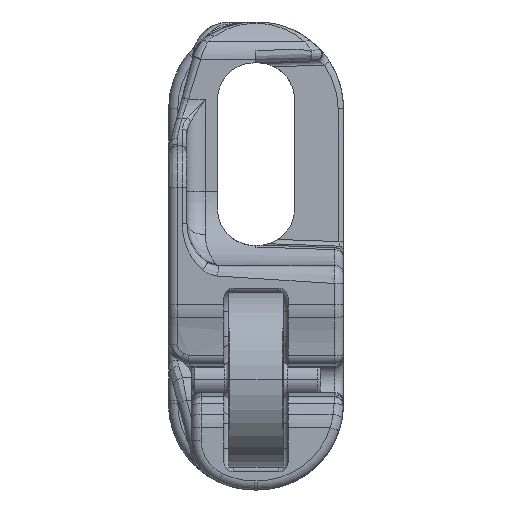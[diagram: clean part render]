
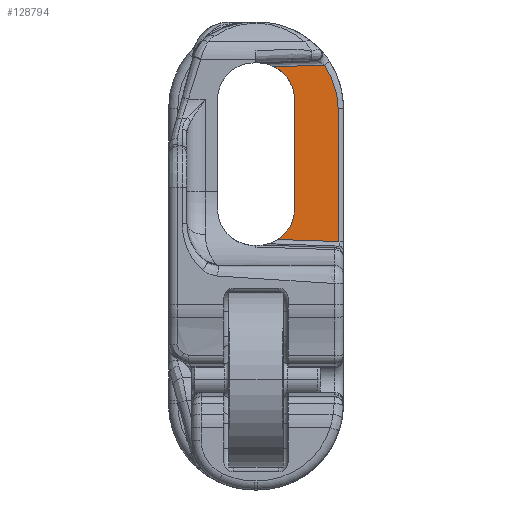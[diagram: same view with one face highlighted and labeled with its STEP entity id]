
A CAD part, left-side view. The second image highlights one B-rep face of the part: STEP entity #128794.
In plain terms, the highlighted planar face has unit normal (-0.999, -0.035, 0).
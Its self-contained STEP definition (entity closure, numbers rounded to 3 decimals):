
#36781=CARTESIAN_POINT('',(-163.38,-2.004,
22.62));
#36834=DIRECTION('',(0.,0.,-1.));
#36835=VECTOR('',#36834,11.9);
#36836=CARTESIAN_POINT('',(-163.303,-4.2,19.05));
#36837=LINE('',#36836,#36835);
#36838=CARTESIAN_POINT('',(-163.38,-2.004,
22.62));
#36839=CARTESIAN_POINT('',(-163.367,-2.37,
22.435));
#36840=CARTESIAN_POINT('',(-163.346,-2.981,
21.991));
#36841=CARTESIAN_POINT('',(-163.323,-3.645,
21.17));
#36842=CARTESIAN_POINT('',(-163.308,-4.079,
20.206));
#36843=CARTESIAN_POINT('',(-163.303,-4.2,19.46));
#36844=CARTESIAN_POINT('',(-163.303,-4.2,19.05));
#36846=DIRECTION('',(0.035,-0.999,0.035));
#36847=VECTOR('',#36846,5.475);
#36848=CARTESIAN_POINT('',(-163.38,-2.004,
22.62));
#36849=LINE('',#36848,#36847);
#36850=CARTESIAN_POINT('',(-163.189,-7.472,
22.811));
#36851=CARTESIAN_POINT('',(-163.188,-7.511,
22.751));
#36852=CARTESIAN_POINT('',(-163.185,-7.589,
22.629));
#36853=CARTESIAN_POINT('',(-163.181,-7.702,
22.444));
#36854=CARTESIAN_POINT('',(-163.177,-7.81,
22.256));
#36855=CARTESIAN_POINT('',(-163.174,-7.914,
22.065));
#36856=CARTESIAN_POINT('',(-163.17,-8.014,
21.872));
#36857=CARTESIAN_POINT('',(-163.167,-8.109,
21.677));
#36858=CARTESIAN_POINT('',(-163.164,-8.199,
21.479));
#36859=CARTESIAN_POINT('',(-163.161,-8.285,
21.278));
#36860=CARTESIAN_POINT('',(-163.158,-8.366,
21.076));
#36861=CARTESIAN_POINT('',(-163.155,-8.442,
20.872));
#36862=CARTESIAN_POINT('',(-163.153,-8.513,
20.665));
#36863=CARTESIAN_POINT('',(-163.15,-8.58,
20.457));
#36864=CARTESIAN_POINT('',(-163.148,-8.641,
20.247));
#36865=CARTESIAN_POINT('',(-163.146,-8.696,
20.035));
#36866=CARTESIAN_POINT('',(-163.145,-8.747,
19.822));
#36867=CARTESIAN_POINT('',(-163.143,-8.792,
19.608));
#36868=CARTESIAN_POINT('',(-163.142,-8.832,
19.392));
#36869=CARTESIAN_POINT('',(-163.14,-8.866,
19.176));
#36870=CARTESIAN_POINT('',(-163.139,-8.895,
18.96));
#36871=CARTESIAN_POINT('',(-163.139,-8.917,
18.744));
#36872=CARTESIAN_POINT('',(-163.138,-8.935,
18.529));
#36873=CARTESIAN_POINT('',(-163.138,-8.946,
18.314));
#36874=CARTESIAN_POINT('',(-163.137,-8.95,
18.171));
#36875=CARTESIAN_POINT('',(-163.137,-8.952,18.1));
#36877=CARTESIAN_POINT('',(-163.137,-8.952,18.1));
#36878=CARTESIAN_POINT('',(-163.137,-8.969,
16.894));
#36879=CARTESIAN_POINT('',(-163.136,-9.,
14.484));
#36880=CARTESIAN_POINT('',(-163.135,-9.029,
10.864));
#36881=CARTESIAN_POINT('',(-163.134,-9.044,
7.266));
#36882=CARTESIAN_POINT('',(-163.134,-9.043,
4.813));
#36883=CARTESIAN_POINT('',(-163.134,-9.042,
3.578));
#36885=DIRECTION('',(-0.035,0.999,0.034));
#36886=VECTOR('',#36885,6.661);
#36887=CARTESIAN_POINT('',(-163.134,-9.042,
3.578));
#36888=LINE('',#36887,#36886);
#36889=CARTESIAN_POINT('',(-163.303,-4.2,7.15));
#36890=CARTESIAN_POINT('',(-163.303,-4.2,6.789));
#36891=CARTESIAN_POINT('',(-163.307,-4.105,
6.119));
#36892=CARTESIAN_POINT('',(-163.319,-3.751,5.229));
#36893=CARTESIAN_POINT('',(-163.338,-3.2,
4.445));
#36894=CARTESIAN_POINT('',(-163.356,-2.691,
3.999));
#36895=CARTESIAN_POINT('',(-163.367,-2.389,
3.802));
#76407=VERTEX_POINT('',#36877);
#76408=VERTEX_POINT('',#36883);
#76410=VERTEX_POINT('',#36850);
#76904=CARTESIAN_POINT('',(-163.303,-4.2,19.05));
#76905=CARTESIAN_POINT('',(-163.303,-4.2,7.15));
#76906=VERTEX_POINT('',#76904);
#76907=VERTEX_POINT('',#76905);
#76915=VERTEX_POINT('',#36781);
#84399=VERTEX_POINT('',#36895);
#128779=CARTESIAN_POINT('',(-163.45,0.,24.41));
#128780=DIRECTION('',(0.999,0.035,0.));
#128781=DIRECTION('',(0.,0.,-1.));
#128782=AXIS2_PLACEMENT_3D('',#128779,#128780,#128781);
#128783=PLANE('',#128782);
#128784=ORIENTED_EDGE('',*,*,#100979,.F.);
#128785=ORIENTED_EDGE('',*,*,#105134,.F.);
#128786=ORIENTED_EDGE('',*,*,#128774,.T.);
#128787=ORIENTED_EDGE('',*,*,#110650,.T.);
#128788=ORIENTED_EDGE('',*,*,#110696,.T.);
#128790=ORIENTED_EDGE('',*,*,#128789,.T.);
#128791=ORIENTED_EDGE('',*,*,#101384,.F.);
#128792=EDGE_LOOP('',(#128784,#128785,#128786,#128787,#128788,#128790,#128791));
#128793=FACE_OUTER_BOUND('',#128792,.F.);
#36845=B_SPLINE_CURVE_WITH_KNOTS('',3,(#36838,#36839,#36840,#36841,#36842,
#36843,#36844),.UNSPECIFIED.,.F.,.F.,(4,1,1,1,4),(0.,0.25,0.5,0.75,
1.),.UNSPECIFIED.);
#36876=B_SPLINE_CURVE_WITH_KNOTS('',3,(#36850,#36851,#36852,#36853,#36854,
#36855,#36856,#36857,#36858,#36859,#36860,#36861,#36862,#36863,#36864,#36865,
#36866,#36867,#36868,#36869,#36870,#36871,#36872,#36873,#36874,#36875),
.UNSPECIFIED.,.F.,.F.,(4,1,1,1,1,1,1,1,1,1,1,1,1,1,1,1,1,1,1,1,1,1,1,4),(0.,
0.043,0.087,0.13,0.174,
0.217,0.261,0.304,0.348,
0.391,0.435,0.478,0.522,
0.565,0.609,0.652,0.696,
0.739,0.783,0.826,0.87,
0.913,0.957,1.),.UNSPECIFIED.);
#36884=B_SPLINE_CURVE_WITH_KNOTS('',3,(#36877,#36878,#36879,#36880,#36881,
#36882,#36883),.UNSPECIFIED.,.F.,.F.,(4,1,1,1,4),(0.,0.25,0.5,0.75,
1.),.UNSPECIFIED.);
#36896=B_SPLINE_CURVE_WITH_KNOTS('',3,(#36889,#36890,#36891,#36892,#36893,
#36894,#36895),.UNSPECIFIED.,.F.,.F.,(4,1,1,1,4),(0.,0.25,0.5,0.75,
1.),.UNSPECIFIED.);
#100979=EDGE_CURVE('',#76906,#76907,#36837,.T.);
#101384=EDGE_CURVE('',#76907,#84399,#36896,.T.);
#105134=EDGE_CURVE('',#76915,#76906,#36845,.T.);
#110650=EDGE_CURVE('',#76410,#76407,#36876,.T.);
#110696=EDGE_CURVE('',#76407,#76408,#36884,.T.);
#128774=EDGE_CURVE('',#76915,#76410,#36849,.T.);
#128789=EDGE_CURVE('',#76408,#84399,#36888,.T.);
#128794=ADVANCED_FACE('',(#128793),#128783,.F.);
